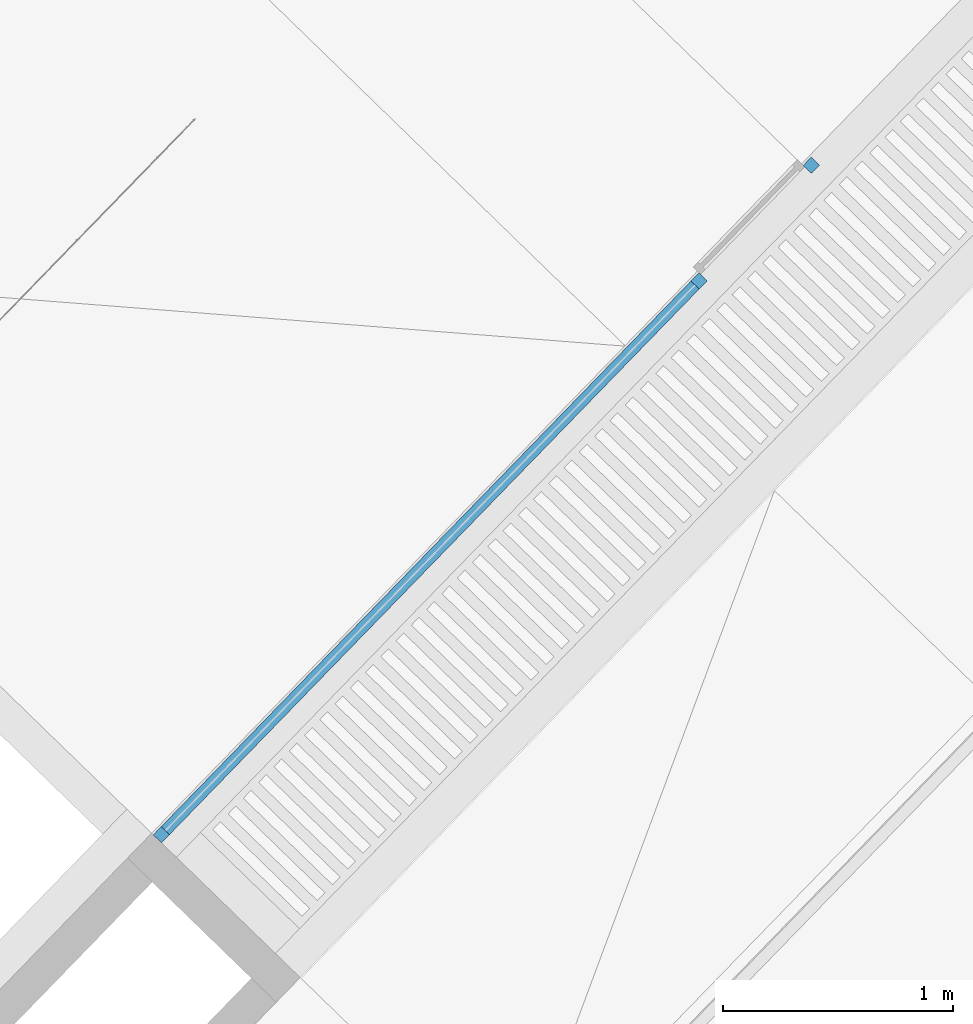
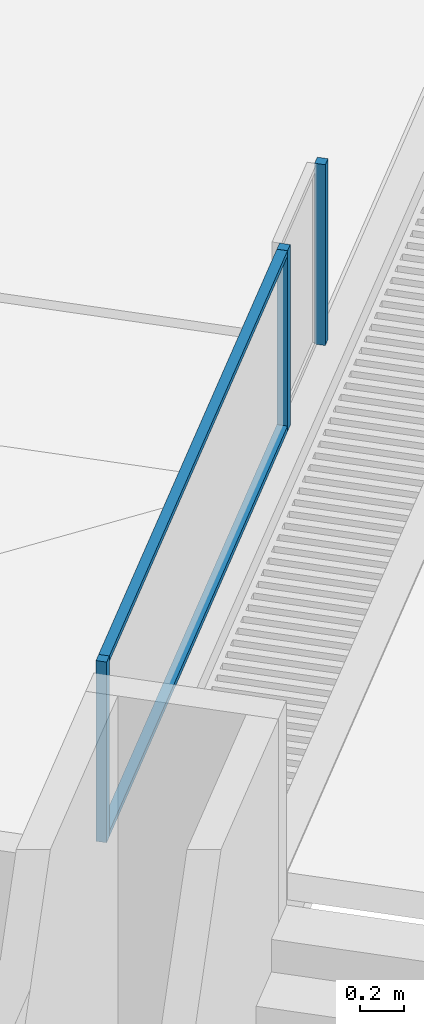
# One storey, part 2 of 37: 5 members, 1 element without a shape of its own.
"""IFC2X3 building model written with IfcOpenShell, lengths in centimetres."""

import ifcopenshell
import ifcopenshell.guid

model = None  # the IFC model being written
_history = None  # IfcOwnerHistory: only IFC2X3 demands one
_inside = {}  # id of a spatial element -> (the spatial element, [elements in it])
_under = {}  # id of a project, library or spatial element -> (it, [spatial elements below it])
_declared = {}  # id of a project -> (the project, [libraries it declares])
_typed = {}  # id of a type object -> (the type object, [elements of that type])
_made_of = {}  # id of a material, layer set ... -> (it, [elements and type objects made of it])


def new_model(schema):
    """Start an empty IFC model of exactly this schema.

    Asked for "IFC4X3", IfcOpenShell would pick the latest addendum, in which some entities
    have other attributes; the version numbers below select the first issue.
    IFC2X3 requires an IfcOwnerHistory on every rooted entity: one is made here for all.
    """
    global model, _history
    if schema == "IFC4X3":
        model = ifcopenshell.file(schema_version=(4, 3, 0, 0))
    else:
        model = ifcopenshell.file(schema=schema)
    _inside.clear()
    _under.clear()
    _declared.clear()
    _typed.clear()
    _made_of.clear()
    _history = None
    if model.schema == "IFC2X3":
        org = make("IfcOrganization", Name="unknown")
        user = make(
            "IfcPersonAndOrganization",
            ThePerson=make("IfcPerson", FamilyName="unknown"),
            TheOrganization=org,
        )
        app = make(
            "IfcApplication",
            ApplicationDeveloper=org,
            Version="unknown",
            ApplicationFullName="unknown",
            ApplicationIdentifier="unknown",
        )
        _history = make(
            "IfcOwnerHistory",
            OwningUser=user,
            OwningApplication=app,
            ChangeAction="ADDED",
            CreationDate=0,
        )
    return model


def make(cls, **values):
    """One entity of the class cls with the attributes given. An attribute that is None is left unset."""
    return model.create_entity(
        cls, **{name: value for name, value in values.items() if value is not None}
    )


def entity(cls, *values):
    """Any entity or typed value of the class cls, its attributes in the order of the schema. None: left unset."""
    e = model.create_entity(cls)
    for i, value in enumerate(values):
        if value is not None:
            e[i] = value
    return e


def rooted(cls, **values):
    """An entity with a GlobalId (a new one), such as an element, a storey or a relation."""
    return make(cls, GlobalId=ifcopenshell.guid.new(), OwnerHistory=_history, **values)


def si_unit(unit_type, name, prefix=None):
    """IfcSIUnit, for example si_unit("LENGTHUNIT", "METRE", prefix="MILLI")."""
    return make("IfcSIUnit", UnitType=unit_type, Prefix=prefix, Name=name)


def converted_unit(unit_type, name, factor, base, dimensions=None, offset=None):
    """IfcConversionBasedUnit, such as the inch: factor (a typed value) times the base unit."""
    return make(
        "IfcConversionBasedUnit"
        if offset is None
        else "IfcConversionBasedUnitWithOffset",
        ConversionOffset=offset,
        Dimensions=None
        if dimensions is None
        else entity("IfcDimensionalExponents", *dimensions),
        UnitType=unit_type,
        Name=name,
        ConversionFactor=make(
            "IfcMeasureWithUnit", ValueComponent=factor, UnitComponent=base
        ),
    )


def derived_unit(unit_type, elements):
    """IfcDerivedUnit: a product of units, each with its exponent."""
    return make(
        "IfcDerivedUnit",
        Elements=[
            make("IfcDerivedUnitElement", Unit=unit, Exponent=power)
            for unit, power in elements
        ],
        UnitType=unit_type,
    )


def assignment(units):
    """IfcUnitAssignment: the units of a project."""
    return None if units is None else make("IfcUnitAssignment", Units=units)


def point(xyz):
    """IfcCartesianPoint."""
    return None if xyz is None else make("IfcCartesianPoint", Coordinates=xyz)


def direction(xyz):
    """IfcDirection."""
    return None if xyz is None else make("IfcDirection", DirectionRatios=xyz)


def frame(location, z_axis=None, x_axis=None):
    """IfcAxis2Placement3D, a coordinate frame: its origin and axes. An axis left out is left unset."""
    return make(
        "IfcAxis2Placement3D",
        Location=point(location),
        Axis=direction(z_axis),
        RefDirection=direction(x_axis),
    )


def frame_2d(location, x_axis=None):
    """IfcAxis2Placement2D, a coordinate frame in the plane: its origin and x axis."""
    return make(
        "IfcAxis2Placement2D", Location=point(location), RefDirection=direction(x_axis)
    )


def origin():
    """The frame at (0, 0, 0) with its axes left unset."""
    return frame((0.0, 0.0, 0.0))


def place(relative_to, where):
    """IfcLocalPlacement: puts the frame where relative to a parent placement (None: the world)."""
    return make(
        "IfcLocalPlacement", PlacementRelTo=relative_to, RelativePlacement=where
    )


def context(
    kind, dimensions, precision=None, world=None, true_north=None, identifier=None
):
    """IfcGeometricRepresentationContext, for example the 3D "Model" context."""
    return make(
        "IfcGeometricRepresentationContext",
        ContextIdentifier=identifier,
        ContextType=kind,
        CoordinateSpaceDimension=dimensions,
        Precision=precision,
        WorldCoordinateSystem=world,
        TrueNorth=true_north,
    )


def subcontext(parent, identifier, kind, view, scale=None):
    """IfcGeometricRepresentationSubContext, for example "Body" below "Model"."""
    return make(
        "IfcGeometricRepresentationSubContext",
        ContextIdentifier=identifier,
        ContextType=kind,
        ParentContext=parent,
        TargetScale=scale,
        TargetView=view,
    )


def project(units=None, contexts=None):
    """IfcProject with its units and contexts."""
    return rooted(
        "IfcProject",
        Name="project",
        RepresentationContexts=contexts,
        UnitsInContext=assignment(units),
    )


def spatial(cls, under=None, at=None, **own):
    """A site, building, storey or space (cls), placed at a placement, below another one or the project."""
    s = rooted(cls, ObjectPlacement=at, **own)
    if under is not None:
        _under.setdefault(under.id(), (under, []))[1].append(s)
    return s


def profile(cls, at=None, kind="AREA", **sizes):
    """A parametric profile (cls). Its sizes go by their IFC names, for example OverallWidth=200.0."""
    return make(cls, ProfileType=kind, Position=at, **sizes)


def rectangle(**sizes):
    """IfcRectangleProfileDef."""
    return profile("IfcRectangleProfileDef", **sizes)


def extrude(swept, where, along, depth):
    """IfcExtrudedAreaSolid: the profile swept, set in the frame where, extruded along a direction by depth."""
    return make(
        "IfcExtrudedAreaSolid",
        SweptArea=swept,
        Position=where,
        ExtrudedDirection=direction(along),
        Depth=depth,
    )


def shape(context_of_items, identifier, shape_type, items):
    """IfcShapeRepresentation: the items that make up one representation, for example the "Body"."""
    return make(
        "IfcShapeRepresentation",
        ContextOfItems=context_of_items,
        RepresentationIdentifier=identifier,
        RepresentationType=shape_type,
        Items=items,
    )


def material(Name=None, Category=None):
    """IfcMaterial."""
    return make("IfcMaterial", Name=Name, Category=Category)


def made_of(thing, what):
    """Note that an element or type object is made of a material, layer set ...; save() writes the relation."""
    if what is not None:
        _made_of.setdefault(what.id(), (what, []))[1].append(thing)
    return thing


def type_object(cls, material=None, **own):
    """A type object (cls), such as IfcWallType, which elements share."""
    return made_of(rooted(cls, **own), material)


def element(
    cls,
    number,
    at=None,
    inside=None,
    cuts=None,
    type_object=None,
    material=None,
    context=None,
    identifier="Body",
    shape_type=None,
    held_by="IfcProductDefinitionShape",
    body=None,
    shapes=None,
    **own,
):
    """One element of the class cls, such as IfcWall. Its Tag is "e" and its number.

    at: its placement. inside: the storey or other place that contains it. cuts: it is an
    opening in that element (IfcRelVoidsElement). A single representation is given by context,
    identifier, shape_type and body (its items); several are given by shapes. held_by: the class
    of the entity that holds the representations. save() writes the other relations.
    """
    e = rooted(cls, Tag="e%d" % number, ObjectPlacement=at, **own)
    if body is not None:
        shapes = [shape(context, identifier, shape_type, body)]
    if shapes is not None:
        e.Representation = make(held_by, Representations=shapes)
    if inside is not None:
        _inside.setdefault(inside.id(), (inside, []))[1].append(e)
    if cuts is not None:
        rooted(
            "IfcRelVoidsElement", RelatingBuildingElement=cuts, RelatedOpeningElement=e
        )
    if type_object is not None:
        _typed.setdefault(type_object.id(), (type_object, []))[1].append(e)
    return made_of(e, material)


def aggregate(whole, parts):
    """IfcRelAggregates: a whole, such as a stair, and the parts it consists of."""
    return rooted("IfcRelAggregates", RelatingObject=whole, RelatedObjects=parts)


def save(model, path):
    """Write the relations noted so far, then the file.

    IfcRelAggregates (storeys below a building ...), IfcRelContainedInSpatialStructure (elements
    in a storey), IfcRelDefinesByType, IfcRelAssociatesMaterial and IfcRelDeclares: one each for
    every whole, place, type object, material and project.
    """
    for whole, parts in _under.values():
        aggregate(whole, parts)
    for where, things in _inside.values():
        rooted(
            "IfcRelContainedInSpatialStructure",
            RelatedElements=things,
            RelatingStructure=where,
        )
    for kind, things in _typed.values():
        rooted("IfcRelDefinesByType", RelatedObjects=things, RelatingType=kind)
    for what, things in _made_of.values():
        rooted("IfcRelAssociatesMaterial", RelatedObjects=things, RelatingMaterial=what)
    for by, libraries in _declared.values():
        rooted("IfcRelDeclares", RelatingContext=by, RelatedDefinitions=libraries)
    model.write(path)


model = new_model("IFC2X3")

# Units and contexts
model_context = context("Model", 3, precision=0.001, world=origin(), true_north=direction((0.717475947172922, 0.696583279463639)))
body_context = subcontext(model_context, "Body", "Model", "MODEL_VIEW")
ifc_project = project(units=[si_unit("LENGTHUNIT", "METRE", prefix="CENTI"), si_unit("AREAUNIT", "SQUARE_METRE"), si_unit("VOLUMEUNIT", "CUBIC_METRE"), converted_unit("PLANEANGLEUNIT", "DEGREE", entity("IfcRatioMeasure", 0.0174532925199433), si_unit("PLANEANGLEUNIT", "RADIAN"), dimensions=[0, 0, 0, 0, 0, 0, 0]), si_unit("MASSUNIT", "GRAM", prefix="KILO"), derived_unit("MASSDENSITYUNIT", [(si_unit("MASSUNIT", "GRAM", prefix="KILO"), 1), (si_unit("LENGTHUNIT", "METRE"), -3)]), si_unit("TIMEUNIT", "SECOND"), si_unit("FREQUENCYUNIT", "HERTZ"), si_unit("THERMODYNAMICTEMPERATUREUNIT", "DEGREE_CELSIUS"), derived_unit("THERMALTRANSMITTANCEUNIT", [(si_unit("MASSUNIT", "GRAM", prefix="KILO"), 1), (si_unit("THERMODYNAMICTEMPERATUREUNIT", "KELVIN"), -1), (si_unit("TIMEUNIT", "SECOND"), -3)]), derived_unit("VOLUMETRICFLOWRATEUNIT", [(si_unit("LENGTHUNIT", "METRE"), 3), (si_unit("TIMEUNIT", "SECOND"), -1)]), si_unit("ELECTRICCURRENTUNIT", "AMPERE"), si_unit("ELECTRICVOLTAGEUNIT", "VOLT"), si_unit("POWERUNIT", "WATT"), si_unit("FORCEUNIT", "NEWTON", prefix="KILO"), si_unit("ILLUMINANCEUNIT", "LUX"), si_unit("LUMINOUSFLUXUNIT", "LUMEN"), si_unit("LUMINOUSINTENSITYUNIT", "CANDELA"), derived_unit("USERDEFINED", [(si_unit("MASSUNIT", "GRAM", prefix="KILO"), -1), (si_unit("LENGTHUNIT", "METRE"), -2), (si_unit("TIMEUNIT", "SECOND"), 3), (si_unit("LUMINOUSFLUXUNIT", "LUMEN"), 1)]), derived_unit("LINEARVELOCITYUNIT", [(si_unit("LENGTHUNIT", "METRE"), 1), (si_unit("TIMEUNIT", "SECOND"), -1)]), si_unit("PRESSUREUNIT", "PASCAL"), derived_unit("USERDEFINED", [(si_unit("LENGTHUNIT", "METRE"), -2), (si_unit("MASSUNIT", "GRAM", prefix="KILO"), 1), (si_unit("TIMEUNIT", "SECOND"), -2)])], contexts=[model_context])

# Site, building, storey
site_placement = place(None, frame((0.0, 0.0, 0.0), z_axis=(0.0, 0.0, 1.0), x_axis=(0.696583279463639, 0.717475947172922, 0.0)))
site = spatial("IfcSite", under=ifc_project, at=site_placement, Name="Surface", CompositionType="ELEMENT")
building_placement = place(site_placement, origin())
building = spatial("IfcBuilding", under=site, at=building_placement, CompositionType="ELEMENT")
storey_placement = place(building_placement, origin())
storey = spatial("IfcBuildingStorey", under=building, at=storey_placement, Name="Nivel 0.00", CompositionType="ELEMENT", Elevation=0.0)

# Curtain wall, members
curtain_wall_type = type_object("IfcCurtainWallType", Name="Curtain Wall:REJA_BAJA_100mm", PredefinedType="NOTDEFINED")
curtain_wall_placement = place(storey_placement, origin())
curtain_wall = element("IfcCurtainWall", 1, at=curtain_wall_placement, inside=storey, type_object=curtain_wall_type, Name="Curtain Wall:REJA_BAJA_100mm", ObjectType="Curtain Wall:REJA_BAJA_100mm")
ifc_material = material(Name="Aluminum")
member_1_placement = place(curtain_wall_placement, origin())
member_1 = element("IfcMember", 2, at=member_1_placement, material=ifc_material, Name="Curtain Wall:REJA_BAJA_100mm", ObjectType="Curtain Wall:REJA_BAJA_100mm", context=body_context, shape_type="SweptSolid", body=[
    extrude(rectangle(XDim=3.00000000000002, YDim=5.00000000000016, at=frame_2d((2.70894418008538e-14, 8.66196003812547e-13), x_axis=(1.0, 0.0))), frame((-1900.75708970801, -1348.55485725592, 250.5), z_axis=(1.0, 0.0, 0.0), x_axis=(0.0, 0.0, -1.0)), (0.0, 0.0, 1.0), 330.230456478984),
])
member_2_placement = place(curtain_wall_placement, origin())
member_2 = element("IfcMember", 3, at=member_2_placement, material=ifc_material, Name="Curtain Wall:REJA_BAJA_100mm", ObjectType="Curtain Wall:REJA_BAJA_100mm", context=body_context, shape_type="SweptSolid", body=[
    extrude(rectangle(XDim=2.99999999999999, YDim=5.00000000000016, at=frame_2d((1.35447209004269e-14, 1.29940502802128e-12), x_axis=(1.0, 0.0))), frame((-1570.52663322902, -1348.55485725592, 153.5), z_axis=(-1.0, 0.0, 0.0), x_axis=(0.0, 0.0, -1.0)), (0.0, 0.0, 1.0), 330.230456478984),
])
member_3_placement = place(curtain_wall_placement, origin())
member_3 = element("IfcMember", 4, at=member_3_placement, material=ifc_material, Name="Curtain Wall:REJA_BAJA_100mm", ObjectType="Curtain Wall:REJA_BAJA_100mm", context=body_context, shape_type="SweptSolid", body=[
    extrude(rectangle(XDim=4.99999999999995, YDim=5.00000000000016, at=frame_2d((-1.08357767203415e-13, 2.16715534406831e-13), x_axis=(1.0, 0.0))), frame((-1903.25708970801, -1348.55485725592, 152.0), z_axis=(0.0, 0.0, 1.0), x_axis=(-1.0, 0.0, 0.0)), (0.0, 0.0, 1.0), 100.0),
])
member_4_placement = place(curtain_wall_placement, origin())
member_4 = element("IfcMember", 5, at=member_4_placement, material=ifc_material, Name="Curtain Wall:REJA_BAJA_100mm", ObjectType="Curtain Wall:REJA_BAJA_100mm", context=body_context, shape_type="SweptSolid", body=[
    extrude(rectangle(XDim=4.99999999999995, YDim=5.00000000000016, at=frame_2d((1.08357767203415e-13, 0.0), x_axis=(1.0, 0.0))), frame((-1498.03640497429, -1348.55485725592, 252.0), z_axis=(0.0, 0.0, -1.0), x_axis=(-1.0, 0.0, 0.0)), (0.0, 0.0, 1.0), 100.0),
])
member_5_placement = place(curtain_wall_placement, origin())
member_5 = element("IfcMember", 6, at=member_5_placement, material=ifc_material, Name="Curtain Wall:REJA_BAJA_100mm", ObjectType="Curtain Wall:REJA_BAJA_100mm", context=body_context, shape_type="SweptSolid", body=[
    extrude(rectangle(XDim=5.00000000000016, YDim=5.00000000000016, at=frame_2d((-2.16715534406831e-13, 0.0), x_axis=(1.0, 0.0))), frame((-1568.02663322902, -1348.55485725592, 152.0), z_axis=(0.0, 0.0, 1.0), x_axis=(-1.0, 0.0, 0.0)), (0.0, 0.0, 1.0), 100.0),
])
aggregate(curtain_wall, [member_1, member_2, member_3, member_4, member_5])

save(model, "model.ifc")
